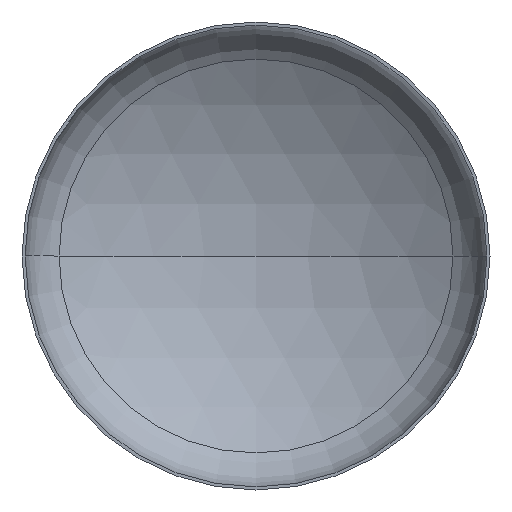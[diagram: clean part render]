
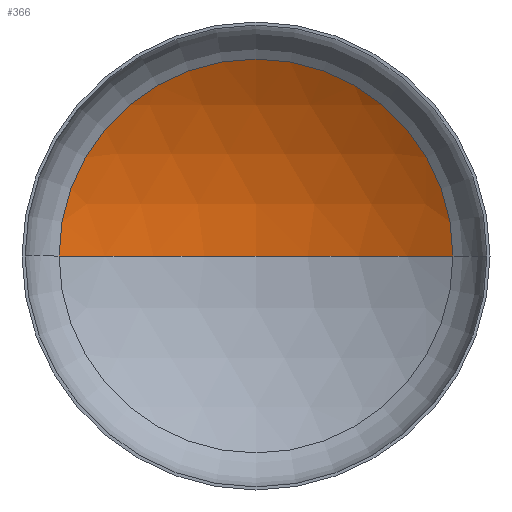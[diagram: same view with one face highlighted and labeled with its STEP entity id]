
A CAD part, front view. The second image highlights one B-rep face of the part: STEP entity #366.
In plain terms, the highlighted spherical face has radius 2560 mm.
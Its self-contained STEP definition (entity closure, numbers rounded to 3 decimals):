
#10 = DIRECTION ( 'NONE',  ( 1., 0., 0. ) ) ;
#15 = CARTESIAN_POINT ( 'NONE',  ( 0., -1690.392, 0. ) ) ;
#22 = ORIENTED_EDGE ( 'NONE', *, *, #155, .T. ) ;
#27 = VERTEX_POINT ( 'NONE', #306 ) ;
#29 = VERTEX_POINT ( 'NONE', #33 ) ;
#32 = ORIENTED_EDGE ( 'NONE', *, *, #158, .F. ) ;
#33 = CARTESIAN_POINT ( 'NONE',  ( 0., 869.608, 0. ) ) ;
#54 = DIRECTION ( 'NONE',  ( -1., 0., 0. ) ) ;
#71 = AXIS2_PLACEMENT_3D ( 'NONE', #91, #84, #10 ) ;
#81 = AXIS2_PLACEMENT_3D ( 'NONE', #15, #189, #54 ) ;
#84 = DIRECTION ( 'NONE',  ( 0., 0., 1. ) ) ;
#85 = AXIS2_PLACEMENT_3D ( 'NONE', #164, #334, #154 ) ;
#91 = CARTESIAN_POINT ( 'NONE',  ( 0., -1690.392, 0. ) ) ;
#92 = EDGE_LOOP ( 'NONE', ( #32, #22, #144 ) ) ;
#103 = VERTEX_POINT ( 'NONE', #239 ) ;
#144 = ORIENTED_EDGE ( 'NONE', *, *, #153, .T. ) ;
#153 = EDGE_CURVE ( 'NONE', #103, #27, #382, .T. ) ;
#154 = DIRECTION ( 'NONE',  ( 1., 0., 0. ) ) ;
#155 = EDGE_CURVE ( 'NONE', #29, #103, #204, .T. ) ;
#158 = EDGE_CURVE ( 'NONE', #29, #27, #376, .T. ) ;
#161 = SPHERICAL_SURFACE ( 'NONE', #272, 2560. ) ;
#164 = CARTESIAN_POINT ( 'NONE',  ( 0., 486.711, 0. ) ) ;
#173 = DIRECTION ( 'NONE',  ( 0., 0., -1. ) ) ;
#189 = DIRECTION ( 'NONE',  ( 0., 0., -1. ) ) ;
#204 = CIRCLE ( 'NONE', #81, 2560. ) ;
#221 = CARTESIAN_POINT ( 'NONE',  ( 0., -1690.392, 0. ) ) ;
#239 = CARTESIAN_POINT ( 'NONE',  ( 1346.783, 486.711, 0. ) ) ;
#272 = AXIS2_PLACEMENT_3D ( 'NONE', #221, #173, #411 ) ;
#284 = FACE_OUTER_BOUND ( 'NONE', #92, .T. ) ;
#306 = CARTESIAN_POINT ( 'NONE',  ( -1346.783, 486.711, 0. ) ) ;
#334 = DIRECTION ( 'NONE',  ( 0., -1., 0. ) ) ;
#366 = ADVANCED_FACE ( 'NONE', ( #284 ), #161, .F. ) ;
#376 = CIRCLE ( 'NONE', #71, 2560. ) ;
#382 = CIRCLE ( 'NONE', #85, 1346.783 ) ;
#411 = DIRECTION ( 'NONE',  ( -1., 0., 0. ) ) ;
